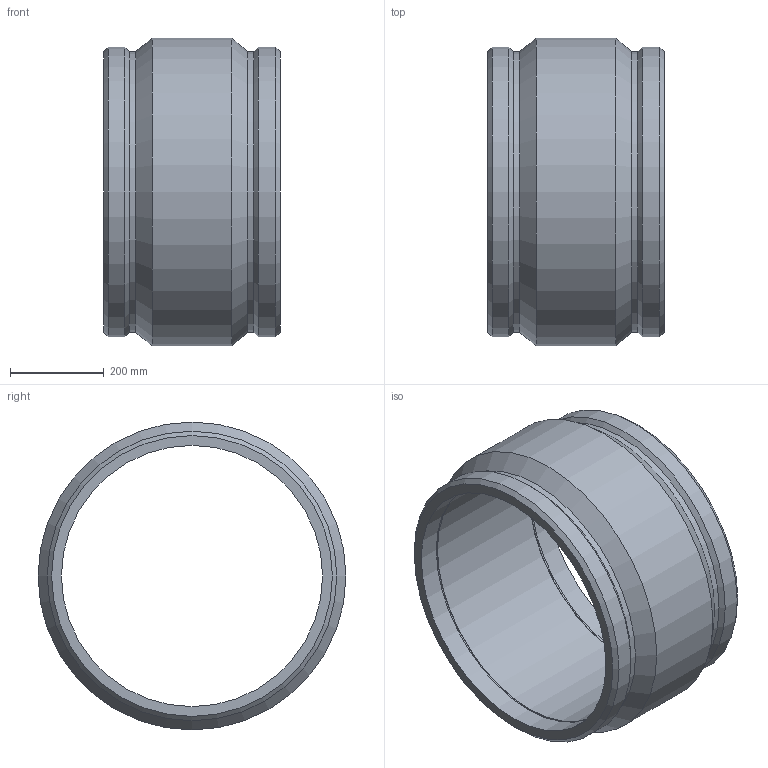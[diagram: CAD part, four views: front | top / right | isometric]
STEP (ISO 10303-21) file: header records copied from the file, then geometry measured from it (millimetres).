
FILE_DESCRIPTION(/* description */ ('PLASSON IPS COUPLER 22'''''),/* implementation_level */ '2;1');
FILE_NAME(/* name */ 'C:\Dropbox\KIMPROJECTS-Inventor 2019\99-16-3568-Processing Inch\ASTM ElectroFusion 2021\5901B\5901B003220.ipt.stp',/* time_stamp */ '2021-08-30T09:48:46+03:00',/* author */ ('KIM'),/* organization */ (''),/* preprocessor_version */ 'ST-DEVELOPER v17.2',/* originating_system */ 'Autodesk Inventor 2019',/* authorisation */ '');
FILE_SCHEMA (('AUTOMOTIVE_DESIGN { 1 0 10303 214 3 1 1 }'));
Length unit declared in the file: inch
Products named in the file (1): 5901B003220
Bounding box: 375.92 x 655.83 x 655.83 mm (x, y, z)
Volume: 27379346.1 mm3; surface area: 1553917.6 mm2
Topology: 1 solids, 1 shells, 20 faces, 56 edges, 40 vertices
Faces by surface type: cone 8, cylinder 8, plane 4
Full cylindrical faces by diameter (mm): 556.3 x3, 597.984 x2, 616.478 x2, 655.828 x1
Entity records: 731 total; most frequent: DIRECTION 138, CARTESIAN_POINT 117, ORIENTED_EDGE 112, AXIS2_PLACEMENT_3D 61, EDGE_CURVE 56, CIRCLE 40, VERTEX_POINT 40, EDGE_LOOP 24
